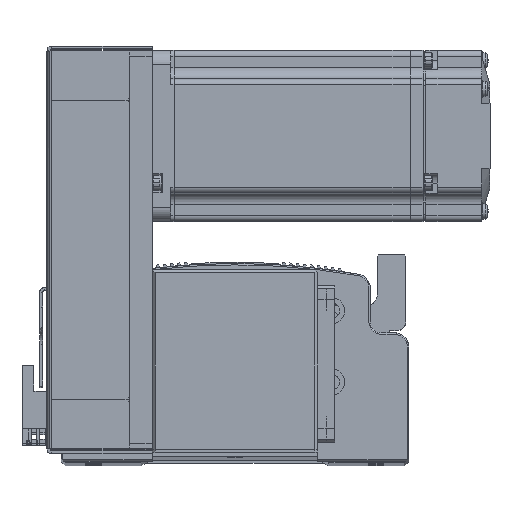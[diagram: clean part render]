
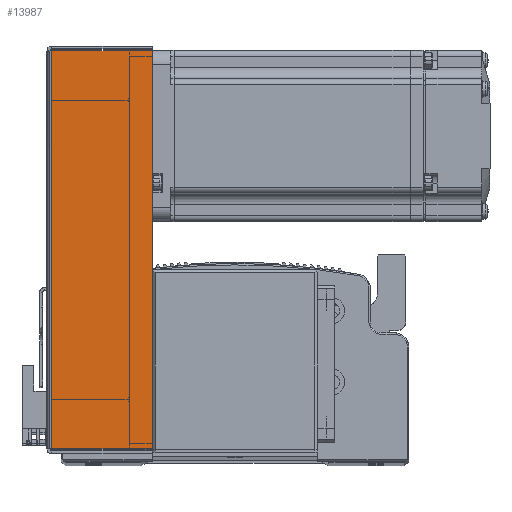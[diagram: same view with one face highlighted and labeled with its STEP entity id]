
A CAD part, top view. The second image highlights one B-rep face of the part: STEP entity #13987.
In plain terms, the highlighted planar face has unit normal (0, 0, 1) as drawn and (0, 0, -1) by its records, which use the part's own axes.
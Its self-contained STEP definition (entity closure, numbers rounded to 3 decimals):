
#13987 = ADVANCED_FACE ( 'NONE', ( #56038 ), #70145, .F. ) ;
#21120 = DIRECTION ( 'NONE',  ( 1., 0., 0. ) ) ;
#21172 = CARTESIAN_POINT ( 'NONE',  ( 71.5, 0.737, -33.5 ) ) ;
#21176 = DIRECTION ( 'NONE',  ( 1., 0., 0. ) ) ;
#21200 = CARTESIAN_POINT ( 'NONE',  ( 0., 36., -33.5 ) ) ;
#21239 = CARTESIAN_POINT ( 'NONE',  ( 69.793, 0., -33.5 ) ) ;
#21241 = DIRECTION ( 'NONE',  ( 0., 1., 0. ) ) ;
#21267 = DIRECTION ( 'NONE',  ( 0., 1., 0. ) ) ;
#21311 = CARTESIAN_POINT ( 'NONE',  ( -69.793, 0., -33.5 ) ) ;
#22571 = LINE ( 'NONE', #21200, #22653 ) ;
#22591 = VECTOR ( 'NONE', #21120, 1000. ) ;
#22653 = VECTOR ( 'NONE', #21176, 1000. ) ;
#22700 = LINE ( 'NONE', #21172, #22591 ) ;
#22834 = LINE ( 'NONE', #21239, #22906 ) ;
#22881 = LINE ( 'NONE', #21311, #22887 ) ;
#22887 = VECTOR ( 'NONE', #21267, 1000. ) ;
#22906 = VECTOR ( 'NONE', #21241, 1000. ) ;
#40385 = CARTESIAN_POINT ( 'NONE',  ( -69.793, 36., -33.5 ) ) ;
#40410 = CARTESIAN_POINT ( 'NONE',  ( -69.793, 0.737, -33.5 ) ) ;
#40431 = CARTESIAN_POINT ( 'NONE',  ( 69.793, 36., -33.5 ) ) ;
#40434 = CARTESIAN_POINT ( 'NONE',  ( 69.793, 0.737, -33.5 ) ) ;
#49129 = EDGE_LOOP ( 'NONE', ( #85168, #84936, #85166, #85234 ) ) ;
#56038 = FACE_OUTER_BOUND ( 'NONE', #49129, .T. ) ;
#58075 = EDGE_CURVE ( 'NONE', #86345, #86457, #22571, .T. ) ;
#58080 = EDGE_CURVE ( 'NONE', #86422, #86405, #22700, .T. ) ;
#58086 = EDGE_CURVE ( 'NONE', #86422, #86345, #22881, .T. ) ;
#58095 = EDGE_CURVE ( 'NONE', #86405, #86457, #22834, .T. ) ;
#70142 = DIRECTION ( 'NONE',  ( 0., -1., 0. ) ) ;
#70145 = PLANE ( 'NONE',  #70308 ) ;
#70147 = DIRECTION ( 'NONE',  ( 0., 0., 1. ) ) ;
#70159 = CARTESIAN_POINT ( 'NONE',  ( 0., 0., -33.5 ) ) ;
#70308 = AXIS2_PLACEMENT_3D ( 'NONE', #70159, #70147, #70142 ) ;
#84936 = ORIENTED_EDGE ( 'NONE', *, *, #58086, .T. ) ;
#85166 = ORIENTED_EDGE ( 'NONE', *, *, #58075, .T. ) ;
#85168 = ORIENTED_EDGE ( 'NONE', *, *, #58080, .F. ) ;
#85234 = ORIENTED_EDGE ( 'NONE', *, *, #58095, .F. ) ;
#86345 = VERTEX_POINT ( 'NONE', #40385 ) ;
#86405 = VERTEX_POINT ( 'NONE', #40434 ) ;
#86422 = VERTEX_POINT ( 'NONE', #40410 ) ;
#86457 = VERTEX_POINT ( 'NONE', #40431 ) ;
